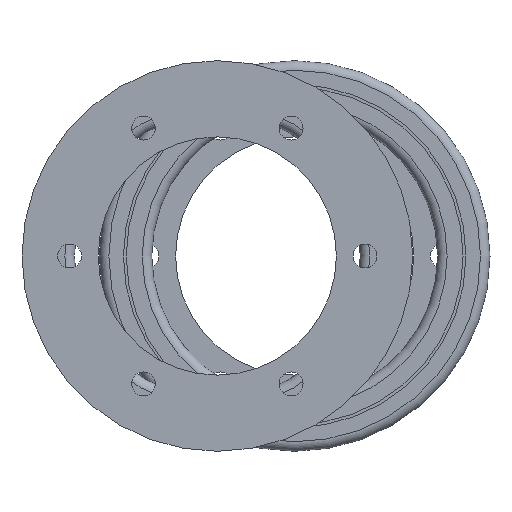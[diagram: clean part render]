
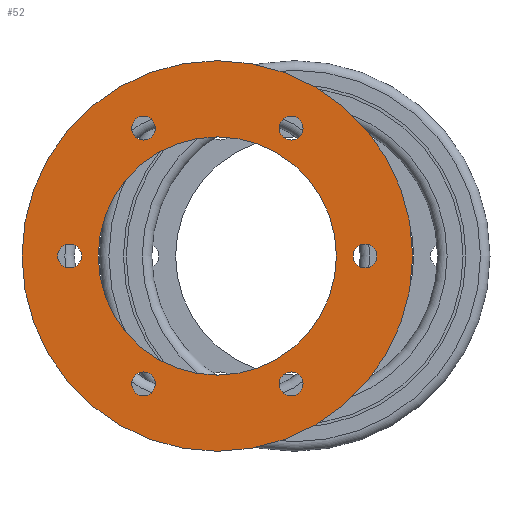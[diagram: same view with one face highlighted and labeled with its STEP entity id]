
A CAD part, left-side view. The second image highlights one B-rep face of the part: STEP entity #52.
In plain terms, the highlighted planar face has unit normal (-1, 0, 0).
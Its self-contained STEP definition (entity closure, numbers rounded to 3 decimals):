
#52 = ADVANCED_FACE( 'NONE', ( #97, #98, #99, #100, #101, #102, #103, #104 ), #105, .F. );
#97 = FACE_OUTER_BOUND( '', #167, .T. );
#98 = FACE_BOUND( '', #168, .T. );
#99 = FACE_BOUND( '', #169, .T. );
#100 = FACE_BOUND( '', #170, .T. );
#101 = FACE_BOUND( '', #171, .T. );
#102 = FACE_BOUND( '', #172, .T. );
#103 = FACE_BOUND( '', #173, .T. );
#104 = FACE_BOUND( '', #174, .T. );
#105 = PLANE( '', #175 );
#167 = EDGE_LOOP( '', ( #265 ) );
#168 = EDGE_LOOP( '', ( #266 ) );
#169 = EDGE_LOOP( '', ( #267 ) );
#170 = EDGE_LOOP( '', ( #268 ) );
#171 = EDGE_LOOP( '', ( #269 ) );
#172 = EDGE_LOOP( '', ( #270 ) );
#173 = EDGE_LOOP( '', ( #271 ) );
#174 = EDGE_LOOP( '', ( #272 ) );
#175 = AXIS2_PLACEMENT_3D( '', #273, #274, #275 );
#265 = ORIENTED_EDGE( '', *, *, #445, .T. );
#266 = ORIENTED_EDGE( '', *, *, #446, .F. );
#267 = ORIENTED_EDGE( '', *, *, #447, .F. );
#268 = ORIENTED_EDGE( '', *, *, #448, .F. );
#269 = ORIENTED_EDGE( '', *, *, #449, .F. );
#270 = ORIENTED_EDGE( '', *, *, #450, .F. );
#271 = ORIENTED_EDGE( '', *, *, #451, .F. );
#272 = ORIENTED_EDGE( '', *, *, #452, .F. );
#273 = CARTESIAN_POINT( '', ( 0., 25., 0. ) );
#274 = DIRECTION( '', ( 1., 0., 0. ) );
#275 = DIRECTION( '', ( 0., 1., 0. ) );
#445 = EDGE_CURVE( 'NONE', #579, #579, #580, .T. );
#446 = EDGE_CURVE( 'NONE', #581, #581, #582, .T. );
#447 = EDGE_CURVE( 'NONE', #583, #583, #584, .T. );
#448 = EDGE_CURVE( 'NONE', #585, #585, #586, .T. );
#449 = EDGE_CURVE( 'NONE', #587, #587, #588, .T. );
#450 = EDGE_CURVE( 'NONE', #589, #589, #590, .T. );
#451 = EDGE_CURVE( 'NONE', #591, #591, #592, .T. );
#452 = EDGE_CURVE( 'NONE', #593, #593, #594, .T. );
#579 = VERTEX_POINT( '', #801 );
#580 = CIRCLE( '', #802, 41. );
#581 = VERTEX_POINT( '', #803 );
#582 = CIRCLE( '', #804, 2.5 );
#583 = VERTEX_POINT( '', #805 );
#584 = CIRCLE( '', #806, 2.5 );
#585 = VERTEX_POINT( '', #807 );
#586 = CIRCLE( '', #808, 2.5 );
#587 = VERTEX_POINT( '', #809 );
#588 = CIRCLE( '', #810, 2.5 );
#589 = VERTEX_POINT( '', #811 );
#590 = CIRCLE( '', #812, 25. );
#591 = VERTEX_POINT( '', #813 );
#592 = CIRCLE( '', #814, 2.5 );
#593 = VERTEX_POINT( '', #815 );
#594 = CIRCLE( '', #816, 2.5 );
#801 = CARTESIAN_POINT( '', ( 0., 0., 41. ) );
#802 = AXIS2_PLACEMENT_3D( '', #878, #879, #880 );
#803 = CARTESIAN_POINT( '', ( 0., -15.5, 29.347 ) );
#804 = AXIS2_PLACEMENT_3D( '', #881, #882, #883 );
#805 = CARTESIAN_POINT( '', ( 0., -15.5, -24.347 ) );
#806 = AXIS2_PLACEMENT_3D( '', #884, #885, #886 );
#807 = CARTESIAN_POINT( '', ( 0., 15.5, -24.347 ) );
#808 = AXIS2_PLACEMENT_3D( '', #887, #888, #889 );
#809 = CARTESIAN_POINT( '', ( 0., 31., 2.5 ) );
#810 = AXIS2_PLACEMENT_3D( '', #890, #891, #892 );
#811 = CARTESIAN_POINT( '', ( 0., 0., 25. ) );
#812 = AXIS2_PLACEMENT_3D( '', #893, #894, #895 );
#813 = CARTESIAN_POINT( '', ( 0., -31., 2.5 ) );
#814 = AXIS2_PLACEMENT_3D( '', #896, #897, #898 );
#815 = CARTESIAN_POINT( '', ( 0., 15.5, 29.347 ) );
#816 = AXIS2_PLACEMENT_3D( '', #899, #900, #901 );
#878 = CARTESIAN_POINT( '', ( 0., 0., 0. ) );
#879 = DIRECTION( '', ( -1., 0., 0. ) );
#880 = DIRECTION( '', ( 0., 0., 1. ) );
#881 = CARTESIAN_POINT( '', ( 0., -15.5, 26.847 ) );
#882 = DIRECTION( '', ( -1., 0., 0. ) );
#883 = DIRECTION( '', ( 0., 0., 1. ) );
#884 = CARTESIAN_POINT( '', ( 0., -15.5, -26.847 ) );
#885 = DIRECTION( '', ( -1., 0., 0. ) );
#886 = DIRECTION( '', ( 0., 0., 1. ) );
#887 = CARTESIAN_POINT( '', ( 0., 15.5, -26.847 ) );
#888 = DIRECTION( '', ( -1., 0., 0. ) );
#889 = DIRECTION( '', ( 0., 0., 1. ) );
#890 = CARTESIAN_POINT( '', ( 0., 31., 0. ) );
#891 = DIRECTION( '', ( -1., 0., 0. ) );
#892 = DIRECTION( '', ( 0., 0., 1. ) );
#893 = CARTESIAN_POINT( '', ( 0., 0., 0. ) );
#894 = DIRECTION( '', ( -1., 0., 0. ) );
#895 = DIRECTION( '', ( 0., 0., 1. ) );
#896 = CARTESIAN_POINT( '', ( 0., -31., 0. ) );
#897 = DIRECTION( '', ( -1., 0., 0. ) );
#898 = DIRECTION( '', ( 0., 0., 1. ) );
#899 = CARTESIAN_POINT( '', ( 0., 15.5, 26.847 ) );
#900 = DIRECTION( '', ( -1., 0., 0. ) );
#901 = DIRECTION( '', ( 0., 0., 1. ) );
